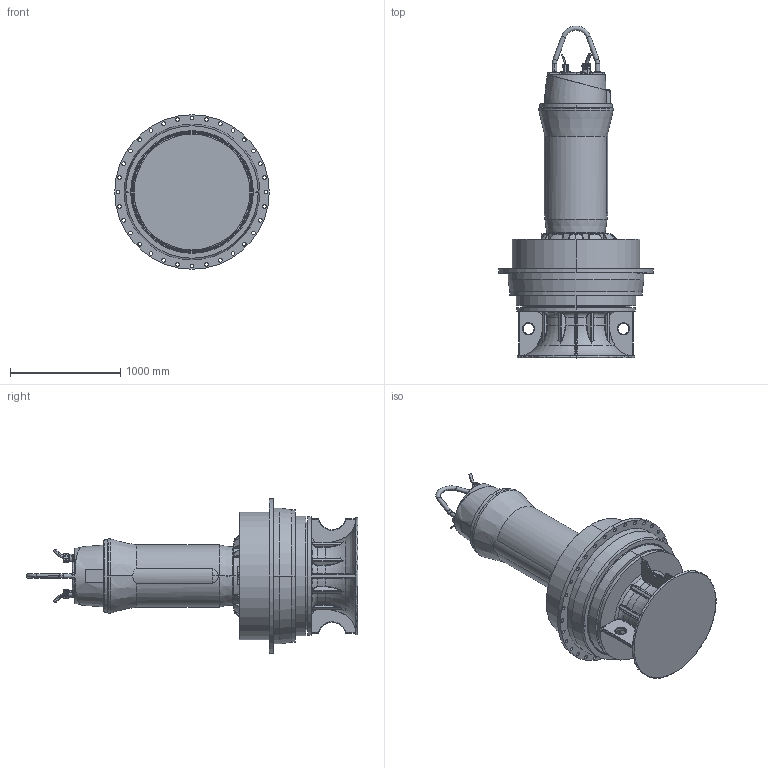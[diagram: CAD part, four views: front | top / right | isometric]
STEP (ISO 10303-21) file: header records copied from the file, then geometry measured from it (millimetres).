
FILE_DESCRIPTION (( 'STEP AP214' ), '1' );
FILE_NAME ('PE7_AFLX1207_DIN_A.STEP', '2017-05-12T05:15:00', ( '' ), ( '' ), 'SwSTEP 2.0', 'SolidWorks 2017', '' );
FILE_SCHEMA (( 'AUTOMOTIVE_DESIGN' ));
Length unit declared in the file: millimetre
Products named in the file (1): PE7_AFLX1207_DIN_A
Bounding box: 1400 x 3008.1 x 1400 mm (x, y, z)
Volume: 1227641521.4 mm3; surface area: 13721001.3 mm2
Topology: 4 solids, 23 shells, 3080 faces, 7488 edges, 4291 vertices
Faces by surface type: bspline 945, plane 683, cylinder 676, torus 359, cone 290, sphere 127
Entity records: 704113 total; most frequent: CARTESIAN_POINT 606075, ORIENTED_EDGE 14504, DIRECTION 11936, EDGE_CURVE 7252, AXIS2_PLACEMENT_3D 4929, VERTEX_POINT 4290, EDGE_LOOP 3280, UNCERTAINTY_MEASURE_WITH_UNIT 3086
